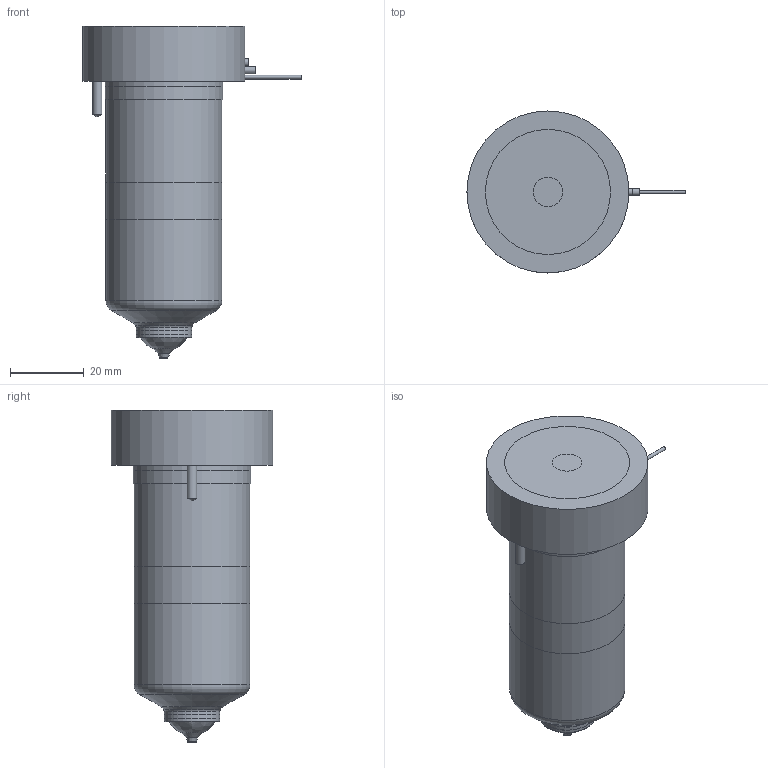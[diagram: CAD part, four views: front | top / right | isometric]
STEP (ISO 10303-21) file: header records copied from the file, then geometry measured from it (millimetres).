
FILE_DESCRIPTION(/* description */ (''),/* implementation_level */ '2;1');
FILE_NAME(/* name */ 'MXOV19075_200C_b',/* time_stamp */ '2007-01-18T09:49:41+13:00',/* author */ (''),/* organization */ (''),/* preprocessor_version */ 'ST-DEVELOPER v9',/* originating_system */ 'UGS - NX 4.0',/* authorisation */ '');
FILE_SCHEMA (('CONFIG_CONTROL_DESIGN'));
Length unit declared in the file: millimetre
Products named in the file (1): MXOV19075_200C_b
Bounding box: 59.25 x 44 x 90.2 mm (x, y, z)
Volume: 131873.4 mm3; surface area: 25217 mm2
Topology: 7 solids, 7 shells, 90 faces, 170 edges, 108 vertices
Faces by surface type: plane 37, cylinder 29, cone 13, torus 8, bspline 3
Full cylindrical faces by diameter (mm): 1 x3, 2 x2, 2.5 x2, 3 x1, 8 x1, 10.8 x1, 11 x1, 14.61 x1, 15.01 x2, 18.3 x1, 25.4 x1, 31.5 x2, 32 x2, 44 x1
Entity records: 2172 total; most frequent: CARTESIAN_POINT 466, DIRECTION 366, ORIENTED_EDGE 236, AXIS2_PLACEMENT_3D 170, EDGE_LOOP 146, EDGE_CURVE 118, VERTEX_POINT 99, ADVANCED_FACE 90
